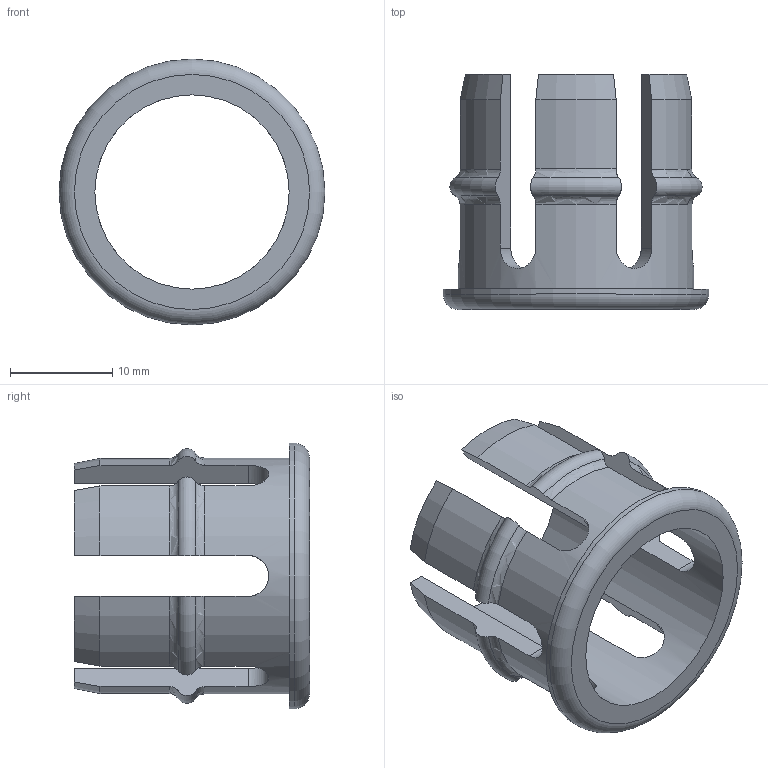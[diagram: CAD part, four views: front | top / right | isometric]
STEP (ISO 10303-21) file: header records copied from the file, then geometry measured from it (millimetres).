
FILE_DESCRIPTION(/* description */ (''),/* implementation_level */ '2;1');
FILE_NAME(/* name */ 'OTB sleeve 19.step',/* time_stamp */ '2026-09-23T16:00:12+03:00',/* author */ (''),/* organization */ (''),/* preprocessor_version */ 'ST-DEVELOPER v20.2',/* originating_system */ 'Autodesk Translation Framework v15.15.0.0',/* authorisation */ '');
FILE_SCHEMA (('AUTOMOTIVE_DESIGN { 1 0 10303 214 3 1 1 }'));
Length unit declared in the file: millimetre
Products named in the file (1): 2026-09-20-08-46-26-113
Bounding box: 26 x 23 x 26 mm (x, y, z)
Volume: 2398.4 mm3; surface area: 3079.1 mm2
Topology: 1 solids, 1 shells, 60 faces, 174 edges, 116 vertices
Faces by surface type: plane 20, torus 19, cylinder 15, cone 6
Full cylindrical faces by diameter (mm): 19 x1, 23.04 x1, 26 x1
Entity records: 2454 total; most frequent: CARTESIAN_POINT 917, ORIENTED_EDGE 348, DIRECTION 283, EDGE_CURVE 174, VERTEX_POINT 116, AXIS2_PLACEMENT_3D 110, LINE 63, VECTOR 63
